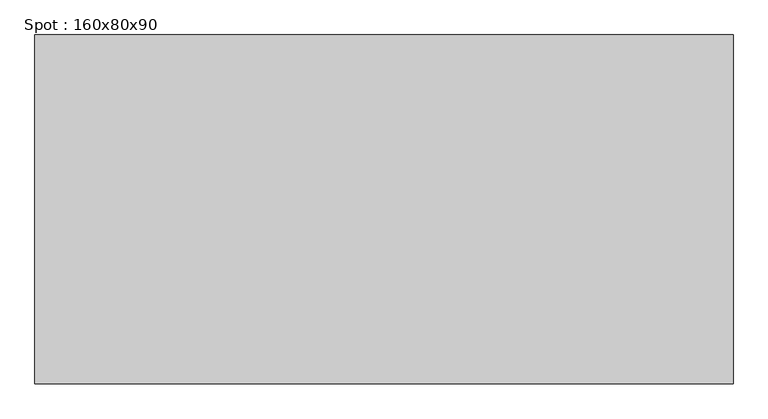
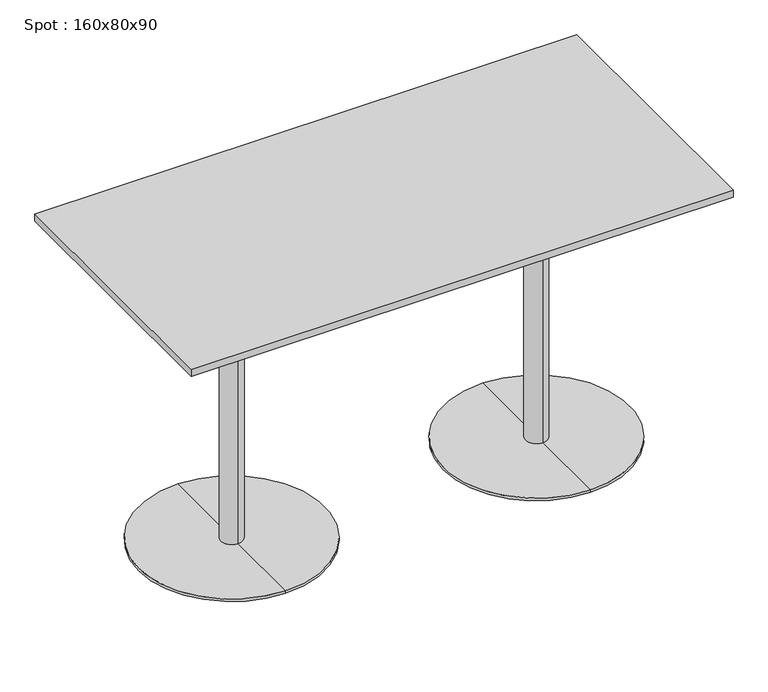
"""IFC4 building model written with IfcOpenShell, lengths in millimetres: furniture geometry, Spot : 160x80x90."""

from ifc_helpers import new_model, si_unit, frame, origin, place, context, project, spatial, polyline, circle_curve, outline, extrude, source, transform, mapped, element, save
from ifc_brep_helpers import plane_surface, cylinder_surface, revolved_surface, advanced_brep


def spot_160x80x90_abc0a1d9(model_context):
    return source(origin(), model_context, "Body", "SolidModel", [
        extrude(outline(polyline([(800.0, 400.0), (800.0, -400.0), (-800.0, -400.0), (-800.0, 400.0), (800.0, 400.0)])), frame((0.0, 0.0, 878.0), z_axis=(0.0, 0.0, 1.0), x_axis=(1.0, 0.0, 0.0)), (0.0, 0.0, 1.0), 22.0),
        advanced_brep(
        [(-450.0, 32.0, 10.0), (-450.0, -32.0, 10.0), (-450.0, -32.0, 847.406916), (-450.0, 32.0, 847.406916), (-450.0, 275.0, 10.0), (-450.0, -275.0, 10.0), (-450.0, 275.0, 2.0), (-450.0, -275.0, 2.0), (-450.0, 0.0, 2.0), (-450.0, 150.0, 878.0), (-450.0, -150.0, 878.0), (-450.0, 0.0, 878.0), (-450.0, 150.0, 866.7213673), (-450.0, -150.0, 866.7213673)],
        [
            (0, 1, circle_curve(frame((-450.0, 0.0, 10.0), z_axis=(0.0, 0.0, 1.0), x_axis=(0.0, -1.0, 0.0)), 32.0)),
            (1, 2),
            (2, 3, circle_curve(frame((-450.0, 0.0, 847.406916), z_axis=(0.0, 0.0, -1.0), x_axis=(0.0, -1.0, 0.0)), 32.0)),
            (3, 0),
            (1, 0, circle_curve(frame((-450.0, 0.0, 10.0), z_axis=(0.0, 0.0, 1.0), x_axis=(0.0, -1.0, 0.0)), 32.0)),
            (3, 2, circle_curve(frame((-450.0, 0.0, 847.406916), z_axis=(0.0, 0.0, -1.0), x_axis=(0.0, -1.0, 0.0)), 32.0)),
            (4, 5, circle_curve(frame((-450.0, 0.0, 10.0), z_axis=(0.0, 0.0, 1.0), x_axis=(0.0, -1.0, 0.0)), 275.0)),
            (5, 1),
            (0, 4),
            (5, 4, circle_curve(frame((-450.0, 0.0, 10.0), z_axis=(0.0, 0.0, 1.0), x_axis=(0.0, -1.0, 0.0)), 275.0)),
            (6, 7, circle_curve(frame((-450.0, 0.0, 2.0), z_axis=(0.0, 0.0, 1.0), x_axis=(0.0, -1.0, 0.0)), 275.0)),
            (7, 5),
            (4, 6),
            (7, 6, circle_curve(frame((-450.0, 0.0, 2.0), z_axis=(0.0, 0.0, 1.0), x_axis=(0.0, -1.0, 0.0)), 275.0)),
            (8, 7),
            (6, 8),
            (9, 10, circle_curve(frame((-450.0, 0.0, 878.0), z_axis=(0.0, 0.0, 1.0), x_axis=(0.0, -1.0, 0.0)), 150.0)),
            (10, 11),
            (11, 9),
            (10, 9, circle_curve(frame((-450.0, 0.0, 878.0), z_axis=(0.0, 0.0, 1.0), x_axis=(0.0, -1.0, 0.0)), 150.0)),
            (12, 13, circle_curve(frame((-450.0, 0.0, 866.7213673), z_axis=(0.0, 0.0, 1.0), x_axis=(0.0, -1.0, 0.0)), 150.0)),
            (13, 10),
            (9, 12),
            (13, 12, circle_curve(frame((-450.0, 0.0, 866.7213673), z_axis=(0.0, 0.0, 1.0), x_axis=(0.0, -1.0, 0.0)), 150.0)),
            (2, 13),
            (12, 3),
        ],
        [
            cylinder_surface(frame((-450.0, 0.0, 1240.0), z_axis=(0.0, 0.0, -1.0), x_axis=(0.0, -1.0, 0.0)), 32.0),
            plane_surface(frame((-450.0, 0.0, 10.0), z_axis=(0.0, 0.0, 1.0), x_axis=(0.0, -1.0, 0.0))),
            cylinder_surface(frame((-450.0, 0.0, 1240.0), z_axis=(0.0, 0.0, -1.0), x_axis=(0.0, -1.0, 0.0)), 275.0),
            plane_surface(frame((-450.0, 0.0, 2.0), z_axis=(0.0, 0.0, -1.0), x_axis=(0.0, -1.0, 0.0))),
            plane_surface(frame((-450.0, 0.0, 878.0), z_axis=(0.0, 0.0, 1.0), x_axis=(0.0, -1.0, 0.0))),
            cylinder_surface(frame((-450.0, 0.0, 1240.0), z_axis=(0.0, 0.0, -1.0), x_axis=(0.0, -1.0, 0.0)), 150.0),
            revolved_surface(polyline([(-450.0, -150.0, 866.7213673), (-450.0, -32.0, 847.406916)]), (-450.0, 0.0, 1240.0), (0.0, 0.0, -1.0)),
        ],
        [
            (0, [[1, 2, 3, 4]]),
            (0, [[5, -4, 6, -2]]),
            (1, [[7, 8, -1, 9]]),
            (1, [[10, -9, -5, -8]]),
            (2, [[11, 12, -7, 13]]),
            (2, [[14, -13, -10, -12]]),
            (3, [[15, -11, 16]]),
            (3, [[-16, -14, -15]]),
            (4, [[17, 18, 19]]),
            (4, [[20, -19, -18]]),
            (5, [[21, 22, -17, 23]]),
            (5, [[24, -23, -20, -22]]),
            (6, [[-3, 25, -21, 26]]),
            (6, [[-6, -26, -24, -25]]),
        ],
    ),
        advanced_brep(
        [(450.0, 32.0, 10.0), (450.0, -32.0, 10.0), (450.0, -32.0, 847.406916), (450.0, 32.0, 847.406916), (450.0, 275.0, 10.0), (450.0, -275.0, 10.0), (450.0, 275.0, 2.0), (450.0, -275.0, 2.0), (450.0, 0.0, 2.0), (450.0, 150.0, 878.0), (450.0, -150.0, 878.0), (450.0, 0.0, 878.0), (450.0, 150.0, 866.7213673), (450.0, -150.0, 866.7213673)],
        [
            (0, 1, circle_curve(frame((450.0, 0.0, 10.0), z_axis=(0.0, 0.0, 1.0), x_axis=(0.0, -1.0, 0.0)), 32.0)),
            (1, 2),
            (2, 3, circle_curve(frame((450.0, 0.0, 847.406916), z_axis=(0.0, 0.0, -1.0), x_axis=(0.0, -1.0, 0.0)), 32.0)),
            (3, 0),
            (1, 0, circle_curve(frame((450.0, 0.0, 10.0), z_axis=(0.0, 0.0, 1.0), x_axis=(0.0, -1.0, 0.0)), 32.0)),
            (3, 2, circle_curve(frame((450.0, 0.0, 847.406916), z_axis=(0.0, 0.0, -1.0), x_axis=(0.0, -1.0, 0.0)), 32.0)),
            (4, 5, circle_curve(frame((450.0, 0.0, 10.0), z_axis=(0.0, 0.0, 1.0), x_axis=(0.0, -1.0, 0.0)), 275.0)),
            (5, 1),
            (0, 4),
            (5, 4, circle_curve(frame((450.0, 0.0, 10.0), z_axis=(0.0, 0.0, 1.0), x_axis=(0.0, -1.0, 0.0)), 275.0)),
            (6, 7, circle_curve(frame((450.0, 0.0, 2.0), z_axis=(0.0, 0.0, 1.0), x_axis=(0.0, -1.0, 0.0)), 275.0)),
            (7, 5),
            (4, 6),
            (7, 6, circle_curve(frame((450.0, 0.0, 2.0), z_axis=(0.0, 0.0, 1.0), x_axis=(0.0, -1.0, 0.0)), 275.0)),
            (8, 7),
            (6, 8),
            (9, 10, circle_curve(frame((450.0, 0.0, 878.0), z_axis=(0.0, 0.0, 1.0), x_axis=(0.0, -1.0, 0.0)), 150.0)),
            (10, 11),
            (11, 9),
            (10, 9, circle_curve(frame((450.0, 0.0, 878.0), z_axis=(0.0, 0.0, 1.0), x_axis=(0.0, -1.0, 0.0)), 150.0)),
            (12, 13, circle_curve(frame((450.0, 0.0, 866.7213673), z_axis=(0.0, 0.0, 1.0), x_axis=(0.0, -1.0, 0.0)), 150.0)),
            (13, 10),
            (9, 12),
            (13, 12, circle_curve(frame((450.0, 0.0, 866.7213673), z_axis=(0.0, 0.0, 1.0), x_axis=(0.0, -1.0, 0.0)), 150.0)),
            (2, 13),
            (12, 3),
        ],
        [
            cylinder_surface(frame((450.0, 0.0, 1240.0), z_axis=(0.0, 0.0, -1.0), x_axis=(0.0, -1.0, 0.0)), 32.0),
            plane_surface(frame((450.0, 0.0, 10.0), z_axis=(0.0, 0.0, 1.0), x_axis=(0.0, -1.0, 0.0))),
            cylinder_surface(frame((450.0, 0.0, 1240.0), z_axis=(0.0, 0.0, -1.0), x_axis=(0.0, -1.0, 0.0)), 275.0),
            plane_surface(frame((450.0, 0.0, 2.0), z_axis=(0.0, 0.0, -1.0), x_axis=(0.0, -1.0, 0.0))),
            plane_surface(frame((450.0, 0.0, 878.0), z_axis=(0.0, 0.0, 1.0), x_axis=(0.0, -1.0, 0.0))),
            cylinder_surface(frame((450.0, 0.0, 1240.0), z_axis=(0.0, 0.0, -1.0), x_axis=(0.0, -1.0, 0.0)), 150.0),
            revolved_surface(polyline([(450.0, -150.0, 866.7213673), (450.0, -32.0, 847.406916)]), (450.0, 0.0, 1240.0), (0.0, 0.0, -1.0)),
        ],
        [
            (0, [[1, 2, 3, 4]]),
            (0, [[5, -4, 6, -2]]),
            (1, [[7, 8, -1, 9]]),
            (1, [[10, -9, -5, -8]]),
            (2, [[11, 12, -7, 13]]),
            (2, [[14, -13, -10, -12]]),
            (3, [[15, -11, 16]]),
            (3, [[-16, -14, -15]]),
            (4, [[17, 18, 19]]),
            (4, [[20, -19, -18]]),
            (5, [[21, 22, -17, 23]]),
            (5, [[24, -23, -20, -22]]),
            (6, [[-3, 25, -21, 26]]),
            (6, [[-6, -26, -24, -25]]),
        ],
    ),
    ])


if __name__ == "__main__":
    model = new_model("IFC4")
    model_context = context("Model", 3, world=origin())
    ifc_project = project(units=[si_unit("LENGTHUNIT", "METRE", prefix="MILLI")], contexts=[model_context])
    site = spatial("IfcSite", under=ifc_project)
    building = spatial("IfcBuilding", under=site)
    placement = place(None, origin())
    spot_160x80x90_shape = spot_160x80x90_abc0a1d9(model_context)
    element("IfcFurniture", 1, ObjectType="Spot : 160x80x90", at=placement, inside=building, context=model_context, shape_type="MappedRepresentation", body=[
        mapped(spot_160x80x90_shape, transform((0.0, 0.0, 0.0), x_axis=(1.0, 0.0, 0.0), y_axis=(0.0, 1.0, 0.0), z_axis=(0.0, 0.0, 1.0))),
    ])
    save(model, "model.ifc")
